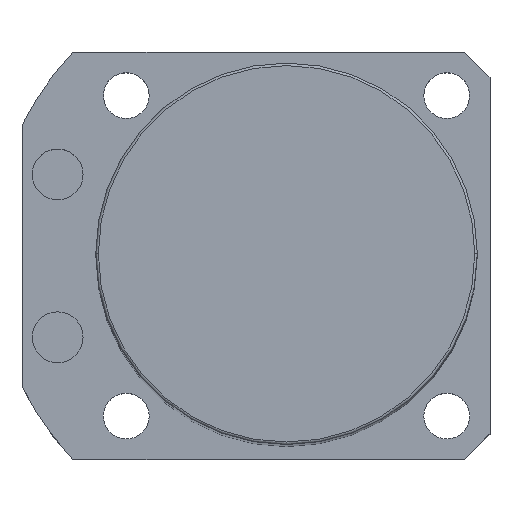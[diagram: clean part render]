
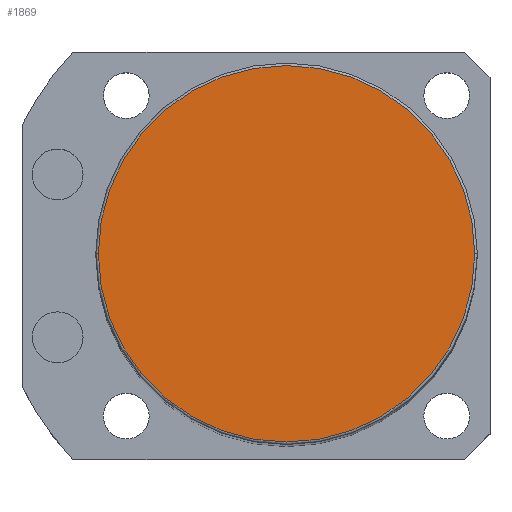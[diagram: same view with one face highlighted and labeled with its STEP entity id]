
A CAD part, top view. The second image highlights one B-rep face of the part: STEP entity #1869.
In plain terms, the highlighted planar face has unit normal (0, 0, 1).
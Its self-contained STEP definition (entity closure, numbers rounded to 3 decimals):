
#555 = DIRECTION ( 'NONE',  ( 0., 0., 1. ) ) ;
#1014 = CARTESIAN_POINT ( 'NONE',  ( 0., 0., 245.5 ) ) ;
#1056 = DIRECTION ( 'NONE',  ( 0., 0., 1. ) ) ;
#1144 = DIRECTION ( 'NONE',  ( 1., 0., 0. ) ) ;
#1507 = DIRECTION ( 'NONE',  ( 1., 0., 0. ) ) ;
#1869 = ADVANCED_FACE ( 'NONE', ( #4340 ), #6117, .T. ) ;
#1879 = VERTEX_POINT ( 'NONE', #3578 ) ;
#2062 = DIRECTION ( 'NONE',  ( 0., 0., 1. ) ) ;
#2402 = AXIS2_PLACEMENT_3D ( 'NONE', #5655, #555, #1144 ) ;
#2652 = EDGE_CURVE ( 'NONE', #1879, #4153, #3473, .T. ) ;
#3096 = DIRECTION ( 'NONE',  ( 1., 0., 0. ) ) ;
#3473 = CIRCLE ( 'NONE', #2402, 37. ) ;
#3578 = CARTESIAN_POINT ( 'NONE',  ( -37., 0., 245.5 ) ) ;
#3632 = EDGE_CURVE ( 'NONE', #4153, #1879, #3777, .T. ) ;
#3777 = CIRCLE ( 'NONE', #3921, 37. ) ;
#3921 = AXIS2_PLACEMENT_3D ( 'NONE', #1014, #2062, #1507 ) ;
#4153 = VERTEX_POINT ( 'NONE', #4360 ) ;
#4340 = FACE_OUTER_BOUND ( 'NONE', #4484, .T. ) ;
#4360 = CARTESIAN_POINT ( 'NONE',  ( 37., 0., 245.5 ) ) ;
#4484 = EDGE_LOOP ( 'NONE', ( #5906, #4850 ) ) ;
#4850 = ORIENTED_EDGE ( 'NONE', *, *, #2652, .T. ) ;
#5064 = CARTESIAN_POINT ( 'NONE',  ( 0., 0., 245.5 ) ) ;
#5468 = AXIS2_PLACEMENT_3D ( 'NONE', #5064, #1056, #3096 ) ;
#5655 = CARTESIAN_POINT ( 'NONE',  ( 0., 0., 245.5 ) ) ;
#5906 = ORIENTED_EDGE ( 'NONE', *, *, #3632, .T. ) ;
#6117 = PLANE ( 'NONE',  #5468 ) ;
